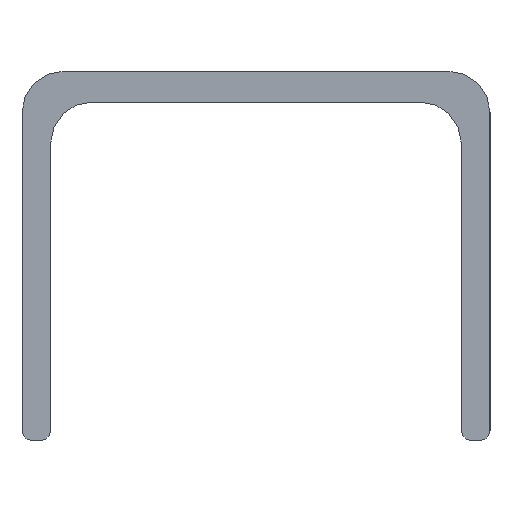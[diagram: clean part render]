
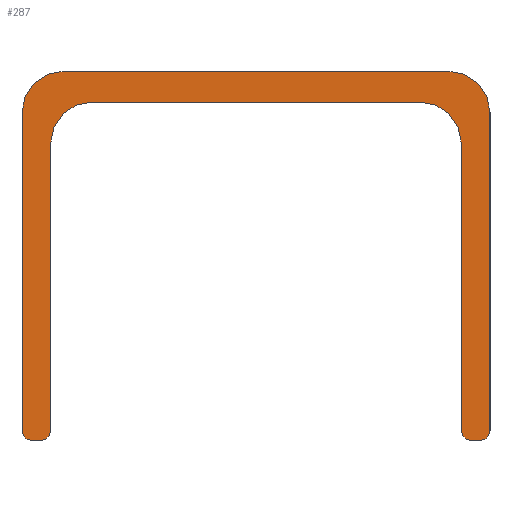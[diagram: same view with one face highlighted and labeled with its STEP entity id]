
A CAD part, left-side view. The second image highlights one B-rep face of the part: STEP entity #287.
In plain terms, the highlighted planar face has unit normal (-1, 0, 0).
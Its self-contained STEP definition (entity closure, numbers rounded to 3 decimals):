
#127 = EDGE_CURVE( '', #245, #315, #343, .T. );
#131 = VERTEX_POINT( '', #347 );
#145 = VERTEX_POINT( '', #364 );
#147 = EDGE_CURVE( '', #303, #215, #366, .T. );
#149 = EDGE_CURVE( '', #215, #245, #368, .T. );
#153 = EDGE_CURVE( '', #285, #189, #372, .T. );
#165 = EDGE_CURVE( '', #315, #199, #384, .T. );
#167 = EDGE_CURVE( '', #199, #255, #386, .T. );
#171 = VERTEX_POINT( '', #391 );
#183 = VERTEX_POINT( '', #404 );
#189 = VERTEX_POINT( '', #410 );
#197 = EDGE_CURVE( '', #251, #239, #418, .T. );
#199 = VERTEX_POINT( '', #420 );
#209 = EDGE_CURVE( '', #131, #251, #431, .T. );
#213 = EDGE_CURVE( '', #145, #131, #435, .T. );
#215 = VERTEX_POINT( '', #437 );
#225 = EDGE_CURVE( '', #183, #229, #447, .T. );
#229 = VERTEX_POINT( '', #451 );
#237 = VERTEX_POINT( '', #459 );
#239 = VERTEX_POINT( '', #461 );
#245 = VERTEX_POINT( '', #467 );
#251 = VERTEX_POINT( '', #473 );
#255 = VERTEX_POINT( '', #478 );
#273 = EDGE_CURVE( '', #171, #303, #499, .T. );
#285 = VERTEX_POINT( '', #513 );
#287 = ADVANCED_FACE( '', ( #515 ), #516, .F. );
#289 = EDGE_CURVE( '', #189, #145, #518, .T. );
#295 = EDGE_CURVE( '', #229, #285, #525, .T. );
#301 = EDGE_CURVE( '', #255, #237, #531, .T. );
#303 = VERTEX_POINT( '', #533 );
#311 = EDGE_CURVE( '', #239, #171, #543, .T. );
#315 = VERTEX_POINT( '', #547 );
#319 = EDGE_CURVE( '', #237, #183, #551, .T. );
#343 = LINE( '', #566, #567 );
#347 = CARTESIAN_POINT( '', ( 0., -8., 16.5 ) );
#364 = CARTESIAN_POINT( '', ( 0., -10., 14.5 ) );
#366 = LINE( '', #595, #596 );
#368 = CIRCLE( '', #599, 0.5 );
#372 = CIRCLE( '', #604, 0.5 );
#384 = CIRCLE( '', #621, 2. );
#386 = LINE( '', #624, #625 );
#391 = CARTESIAN_POINT( '', ( 0., 10., 0.5 ) );
#404 = CARTESIAN_POINT( '', ( 0., -11.4, 0.5 ) );
#410 = CARTESIAN_POINT( '', ( 0., -10., 0.5 ) );
#418 = CIRCLE( '', #672, 2. );
#420 = CARTESIAN_POINT( '', ( 0., 9.4, 18. ) );
#431 = LINE( '', #690, #691 );
#435 = CIRCLE( '', #696, 2. );
#437 = CARTESIAN_POINT( '', ( 0., 10.9, 0. ) );
#447 = CIRCLE( '', #712, 0.5 );
#451 = CARTESIAN_POINT( '', ( 0., -10.9, 0. ) );
#459 = CARTESIAN_POINT( '', ( 0., -11.4, 16. ) );
#461 = CARTESIAN_POINT( '', ( 0., 10., 14.5 ) );
#467 = CARTESIAN_POINT( '', ( 0., 11.4, 0.5 ) );
#473 = CARTESIAN_POINT( '', ( 0., 8., 16.5 ) );
#478 = CARTESIAN_POINT( '', ( 0., -9.4, 18. ) );
#499 = CIRCLE( '', #781, 0.5 );
#513 = CARTESIAN_POINT( '', ( 0., -10.5, 0. ) );
#515 = FACE_OUTER_BOUND( '', #799, .T. );
#516 = PLANE( '', #800 );
#518 = LINE( '', #803, #804 );
#525 = LINE( '', #813, #814 );
#531 = CIRCLE( '', #823, 2. );
#533 = CARTESIAN_POINT( '', ( 0., 10.5, 0. ) );
#543 = LINE( '', #838, #839 );
#547 = CARTESIAN_POINT( '', ( 0., 11.4, 16. ) );
#551 = LINE( '', #851, #852 );
#566 = CARTESIAN_POINT( '', ( 0., 11.4, 0.5 ) );
#567 = VECTOR( '', #882, 1. );
#595 = CARTESIAN_POINT( '', ( 0., 10.5, 0. ) );
#596 = VECTOR( '', #909, 1. );
#599 = AXIS2_PLACEMENT_3D( '', #910, #911, #912 );
#604 = AXIS2_PLACEMENT_3D( '', #913, #914, #915 );
#621 = AXIS2_PLACEMENT_3D( '', #922, #923, #924 );
#624 = CARTESIAN_POINT( '', ( 0., 9.4, 18. ) );
#625 = VECTOR( '', #925, 1. );
#672 = AXIS2_PLACEMENT_3D( '', #949, #950, #951 );
#690 = CARTESIAN_POINT( '', ( 0., -8., 16.5 ) );
#691 = VECTOR( '', #962, 1. );
#696 = AXIS2_PLACEMENT_3D( '', #963, #964, #965 );
#712 = AXIS2_PLACEMENT_3D( '', #970, #971, #972 );
#781 = AXIS2_PLACEMENT_3D( '', #1023, #1024, #1025 );
#799 = EDGE_LOOP( '', ( #1044, #1045, #1046, #1047, #1048, #1049, #1050, #1051, #1052, #1053, #1054, #1055, #1056, #1057, #1058, #1059 ) );
#800 = AXIS2_PLACEMENT_3D( '', #1060, #1061, #1062 );
#803 = CARTESIAN_POINT( '', ( 0., -10., 0.5 ) );
#804 = VECTOR( '', #1063, 1. );
#813 = CARTESIAN_POINT( '', ( 0., -10.9, 0. ) );
#814 = VECTOR( '', #1075, 1. );
#823 = AXIS2_PLACEMENT_3D( '', #1077, #1078, #1079 );
#838 = CARTESIAN_POINT( '', ( 0., 10., 14.5 ) );
#839 = VECTOR( '', #1097, 1. );
#851 = CARTESIAN_POINT( '', ( 0., -11.4, 16. ) );
#852 = VECTOR( '', #1102, 1. );
#882 = DIRECTION( '', ( 0., 0., 1. ) );
#909 = DIRECTION( '', ( 0., 1., 0. ) );
#910 = CARTESIAN_POINT( '', ( 0., 10.9, 0.5 ) );
#911 = DIRECTION( '', ( 1., 0., 0. ) );
#912 = DIRECTION( '', ( 0., 0., -1. ) );
#913 = CARTESIAN_POINT( '', ( 0., -10.5, 0.5 ) );
#914 = DIRECTION( '', ( 1., 0., 0. ) );
#915 = DIRECTION( '', ( 0., 0., -1. ) );
#922 = CARTESIAN_POINT( '', ( 0., 9.4, 16. ) );
#923 = DIRECTION( '', ( 1., 0., 0. ) );
#924 = DIRECTION( '', ( 0., 1., 0. ) );
#925 = DIRECTION( '', ( 0., -1., 0. ) );
#949 = CARTESIAN_POINT( '', ( 0., 8., 14.5 ) );
#950 = DIRECTION( '', ( -1., 0., 0. ) );
#951 = DIRECTION( '', ( 0., 0., 1. ) );
#962 = DIRECTION( '', ( 0., 1., 0. ) );
#963 = CARTESIAN_POINT( '', ( 0., -8., 14.5 ) );
#964 = DIRECTION( '', ( -1., 0., 0. ) );
#965 = DIRECTION( '', ( 0., -1., 0. ) );
#970 = CARTESIAN_POINT( '', ( 0., -10.9, 0.5 ) );
#971 = DIRECTION( '', ( 1., 0., 0. ) );
#972 = DIRECTION( '', ( 0., -1., 0. ) );
#1023 = CARTESIAN_POINT( '', ( 0., 10.5, 0.5 ) );
#1024 = DIRECTION( '', ( 1., 0., 0. ) );
#1025 = DIRECTION( '', ( 0., -1., 0. ) );
#1044 = ORIENTED_EDGE( '', *, *, #301, .F. );
#1045 = ORIENTED_EDGE( '', *, *, #167, .F. );
#1046 = ORIENTED_EDGE( '', *, *, #165, .F. );
#1047 = ORIENTED_EDGE( '', *, *, #127, .F. );
#1048 = ORIENTED_EDGE( '', *, *, #149, .F. );
#1049 = ORIENTED_EDGE( '', *, *, #147, .F. );
#1050 = ORIENTED_EDGE( '', *, *, #273, .F. );
#1051 = ORIENTED_EDGE( '', *, *, #311, .F. );
#1052 = ORIENTED_EDGE( '', *, *, #197, .F. );
#1053 = ORIENTED_EDGE( '', *, *, #209, .F. );
#1054 = ORIENTED_EDGE( '', *, *, #213, .F. );
#1055 = ORIENTED_EDGE( '', *, *, #289, .F. );
#1056 = ORIENTED_EDGE( '', *, *, #153, .F. );
#1057 = ORIENTED_EDGE( '', *, *, #295, .F. );
#1058 = ORIENTED_EDGE( '', *, *, #225, .F. );
#1059 = ORIENTED_EDGE( '', *, *, #319, .F. );
#1060 = CARTESIAN_POINT( '', ( 0., 0., 0. ) );
#1061 = DIRECTION( '', ( 1., 0., 0. ) );
#1062 = DIRECTION( '', ( 0., 0., -1. ) );
#1063 = DIRECTION( '', ( 0., 0., 1. ) );
#1075 = DIRECTION( '', ( 0., 1., 0. ) );
#1077 = CARTESIAN_POINT( '', ( 0., -9.4, 16. ) );
#1078 = DIRECTION( '', ( 1., 0., 0. ) );
#1079 = DIRECTION( '', ( 0., 0., 1. ) );
#1097 = DIRECTION( '', ( 0., 0., -1. ) );
#1102 = DIRECTION( '', ( 0., 0., -1. ) );
